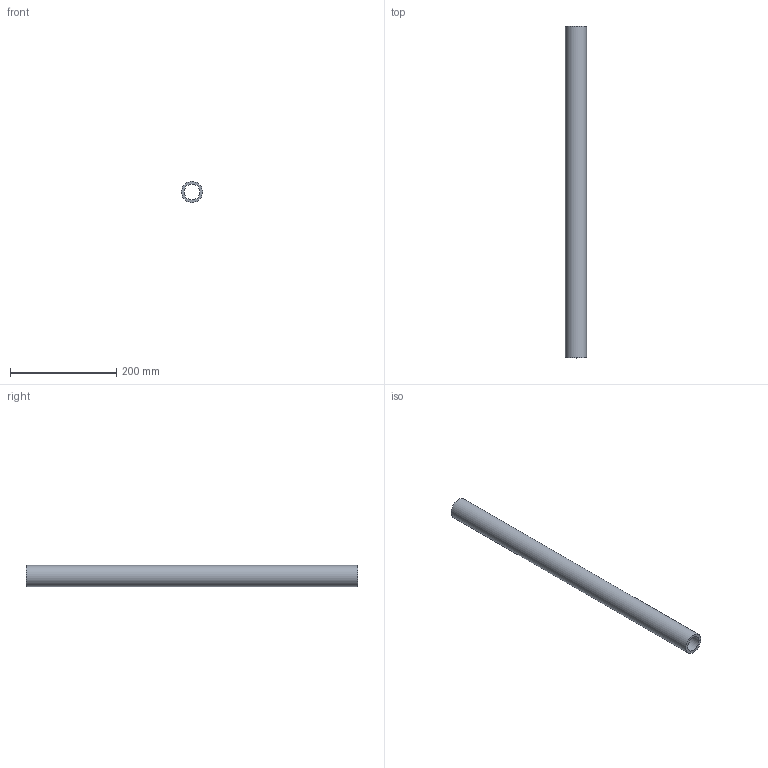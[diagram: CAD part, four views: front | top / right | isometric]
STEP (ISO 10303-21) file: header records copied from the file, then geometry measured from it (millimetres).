
FILE_DESCRIPTION(('Open CASCADE Model'),'2;1');
FILE_NAME('Open CASCADE Shape Model','2026-10-18T22:58:17',('Author'),( 'Open CASCADE'),'Open CASCADE STEP processor 7.9','Open CASCADE 7.9' ,'Unknown');
FILE_SCHEMA(('AUTOMOTIVE_DESIGN { 1 0 10303 214 1 1 1 1 }'));
Length unit declared in the file: millimetre
Products named in the file (1): Open CASCADE STEP translator 7.9 15
Bounding box: 40 x 624 x 40 mm (x, y, z)
Volume: 343061.9 mm3; surface area: 138324.3 mm2
Topology: 1 solids, 1 shells, 4 faces, 6 edges, 4 vertices
Faces by surface type: cylinder 2, plane 2
Full cylindrical faces by diameter (mm): 30 x1, 40 x1
Entity records: 186 total; most frequent: DIRECTION 32, CARTESIAN_POINT 27, ORIENTED_EDGE 12, PCURVE 12, DEFINITIONAL_REPRESENTATION 12, LINE 10, VECTOR 10, AXIS2_PLACEMENT_3D 9
